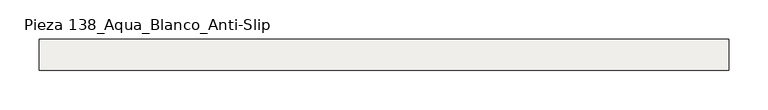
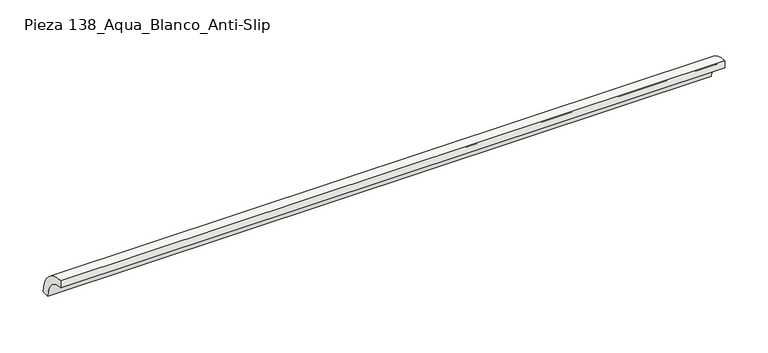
"""IFC4 building model written with IfcOpenShell, lengths in millimetres: slab geometry, ROSA GRES_138 : Pieza 138_Aqua_Blanco_Anti-Slip."""

from ifc_helpers import new_model, si_unit, point, frame, frame_2d, origin, origin_2d, place, context, project, spatial, polyline, circle_curve, trimmed, segment, composite_curve, outline, extrude, source, transform, mapped, element, save


def pieza_138_aqua_blanco_anti_slip_d2bc28ed(model_context):
    return source(origin(), model_context, "Body", "SweptSolid", [
        extrude(outline(composite_curve([segment(trimmed(circle_curve(origin_2d(), 40.0), [point((0.0, 40.0))], [point((40.0, 0.0))], False, "CARTESIAN"), True, "CONTINUOUS"), segment(polyline([(40.0, 0.0), (30.0265886, 0.0)]), True, "CONTINUOUS"), segment(trimmed(circle_curve(frame_2d((0.0044453, 0.0044453)), 30.0221435), [point((30.0265886, 0.0))], [point((0.0, 30.0265886))], True, "CARTESIAN"), True, "CONTINUOUS"), segment(polyline([(0.0, 30.0265886), (0.0, 40.0)]), True, "CONTINUOUS")], self_intersect=False)), frame((0.0, 0.0, 0.0), z_axis=(1.0, 0.0, 0.0), x_axis=(0.0, 1.0, 0.0)), (0.0, 0.0, 1.0), 880.9148698),
    ])


if __name__ == "__main__":
    model = new_model("IFC4")
    model_context = context("Model", 3, world=origin())
    ifc_project = project(units=[si_unit("LENGTHUNIT", "METRE", prefix="MILLI")], contexts=[model_context])
    site = spatial("IfcSite", under=ifc_project)
    building = spatial("IfcBuilding", under=site)
    placement = place(None, origin())
    pieza_138_aqua_blanco_anti_slip_shape = pieza_138_aqua_blanco_anti_slip_d2bc28ed(model_context)
    element("IfcSlab", 1, ObjectType="ROSA GRES_138 : Pieza 138_Aqua_Blanco_Anti-Slip", at=placement, inside=building, context=model_context, shape_type="MappedRepresentation", body=[
        mapped(pieza_138_aqua_blanco_anti_slip_shape, transform((0.0, 0.0, 0.0), x_axis=(1.0, 0.0, 0.0), y_axis=(0.0, 1.0, 0.0), z_axis=(0.0, 0.0, 1.0))),
    ])
    save(model, "model.ifc")
